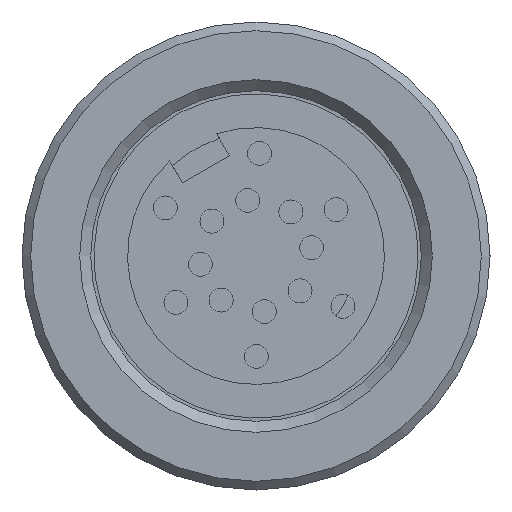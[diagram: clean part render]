
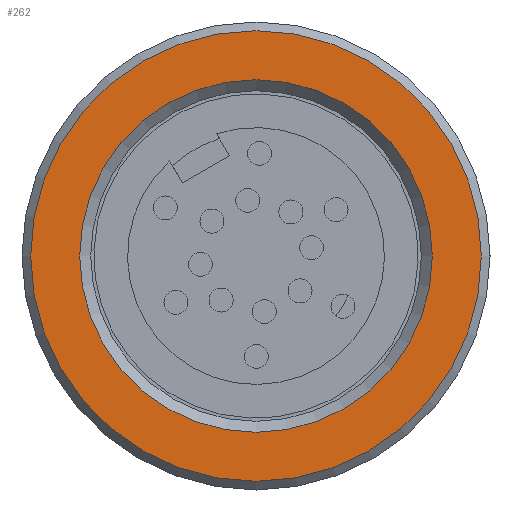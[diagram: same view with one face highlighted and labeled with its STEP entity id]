
A CAD part, left-side view. The second image highlights one B-rep face of the part: STEP entity #262.
In plain terms, the highlighted planar face has unit normal (-1, 0, 0).
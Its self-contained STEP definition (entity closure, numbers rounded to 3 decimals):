
#105=PLANE('',#1518);
#262=ADVANCED_FACE('',(#428,#429),#105,.T.);
#428=FACE_BOUND('',#579,.T.);
#429=FACE_BOUND('',#580,.T.);
#579=EDGE_LOOP('',(#777));
#580=EDGE_LOOP('',(#778));
#777=ORIENTED_EDGE('',*,*,#1243,.T.);
#778=ORIENTED_EDGE('',*,*,#1242,.F.);
#1106=VERTEX_POINT('',#2249);
#1107=VERTEX_POINT('',#2252);
#1242=EDGE_CURVE('',#1106,#1106,#1405,.T.);
#1243=EDGE_CURVE('',#1107,#1107,#1406,.T.);
#1405=CIRCLE('',#1515,10.35);
#1406=CIRCLE('',#1517,8.1);
#1515=AXIS2_PLACEMENT_3D('',#2248,#1753,#1754);
#1517=AXIS2_PLACEMENT_3D('',#2251,#1757,#1758);
#1518=AXIS2_PLACEMENT_3D('',#2253,#1759,#1760);
#1753=DIRECTION('',(1.,0.,0.));
#1754=DIRECTION('',(0.,0.,-1.));
#1757=DIRECTION('',(1.,0.,0.));
#1758=DIRECTION('',(0.,0.,1.));
#1759=DIRECTION('',(-1.,0.,0.));
#1760=DIRECTION('',(0.,0.,1.));
#2248=CARTESIAN_POINT('',(14.6,0.,0.));
#2249=CARTESIAN_POINT('',(14.6,0.,-10.35));
#2251=CARTESIAN_POINT('',(14.6,0.,0.));
#2252=CARTESIAN_POINT('',(14.6,0.,8.1));
#2253=CARTESIAN_POINT('',(14.6,0.,0.));
